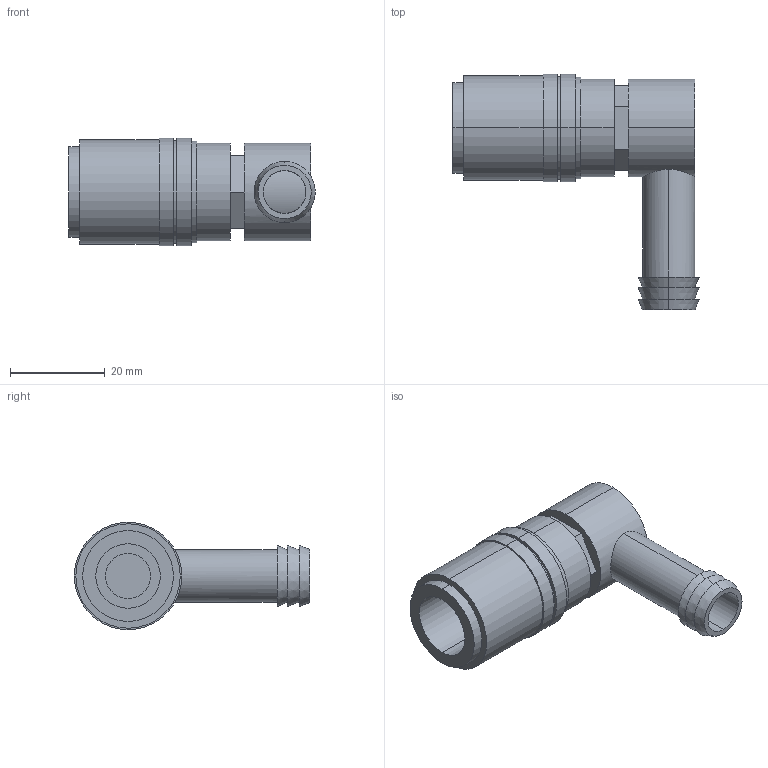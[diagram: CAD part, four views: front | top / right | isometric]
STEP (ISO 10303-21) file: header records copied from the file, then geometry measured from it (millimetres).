
FILE_DESCRIPTION (( 'STEP AP214' ), '1' );
FILE_NAME ('BR802-11-90.STEP', '2020-06-23T09:26:46', ( '' ), ( '' ), 'SwSTEP 2.0', 'SolidWorks 2018', '' );
FILE_SCHEMA (( 'AUTOMOTIVE_DESIGN' ));
Length unit declared in the file: millimetre
Products named in the file (1): BR802-11-90
Bounding box: 51.94 x 49.6 x 22.64 mm (x, y, z)
Volume: 13624.3 mm3; surface area: 7981.9 mm2
Topology: 1 solids, 1 shells, 53 faces, 110 edges, 73 vertices
Faces by surface type: cylinder 25, plane 22, cone 6
Entity records: 1606 total; most frequent: CARTESIAN_POINT 386, DIRECTION 270, ORIENTED_EDGE 220, AXIS2_PLACEMENT_3D 111, EDGE_CURVE 110, VERTEX_POINT 73, EDGE_LOOP 67, CIRCLE 57
